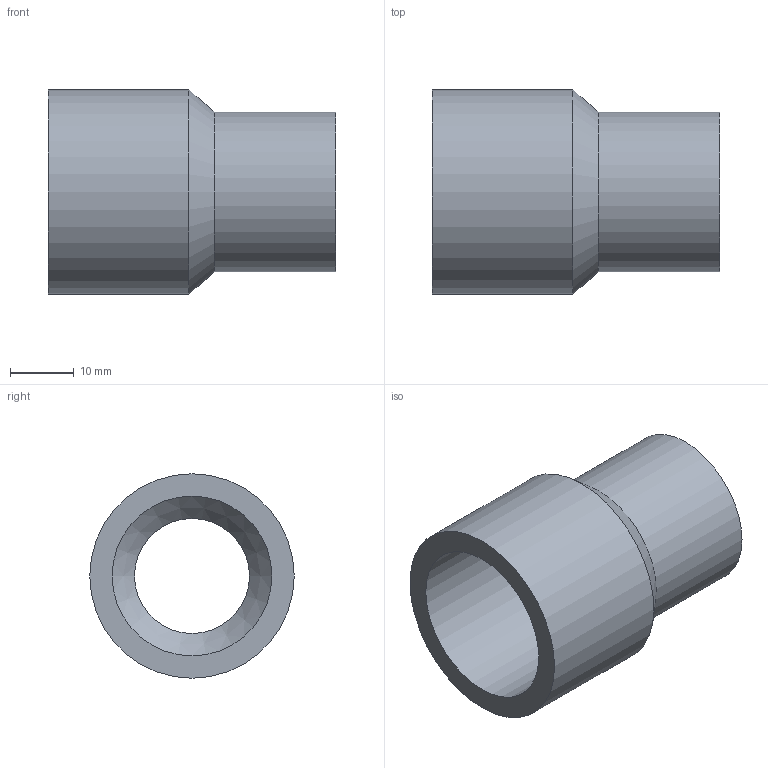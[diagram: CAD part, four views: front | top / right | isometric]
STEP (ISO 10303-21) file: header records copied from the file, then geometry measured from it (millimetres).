
FILE_DESCRIPTION(/* description */ ('PLASSON REDUCING SOCKET M.F.32(25)20 CEMENTED'),/* implementation_level */ '2;1');
FILE_NAME(/* name */ 'C:\Dropbox\KIMPROJECTS-Inventor\99-16-3568-Processing\PVC Catalog 2017\050200\050200032020.ipt.stp',/* time_stamp */ '2017-12-07T15:52:09+02:00',/* author */ ('KIM'),/* organization */ (''),/* preprocessor_version */ 'ST-DEVELOPER v15.6',/* originating_system */ 'Autodesk Inventor 2015',/* authorisation */ '');
FILE_SCHEMA (('AUTOMOTIVE_DESIGN { 1 0 10303 214 3 1 1 }'));
Length unit declared in the file: millimetre
Products named in the file (1): 050200032020
Bounding box: 45 x 32 x 32 mm (x, y, z)
Volume: 12116.5 mm3; surface area: 7947.9 mm2
Topology: 1 solids, 1 shells, 10 faces, 17 edges, 10 vertices
Faces by surface type: cylinder 5, plane 3, cone 2
Full cylindrical faces by diameter (mm): 18 x1, 20 x1, 25 x2, 32 x1
Entity records: 232 total; most frequent: DIRECTION 42, CARTESIAN_POINT 31, AXIS2_PLACEMENT_3D 21, EDGE_LOOP 20, ORIENTED_EDGE 20, FACE_BOUND 10, FACE_OUTER_BOUND 10, CIRCLE 10
